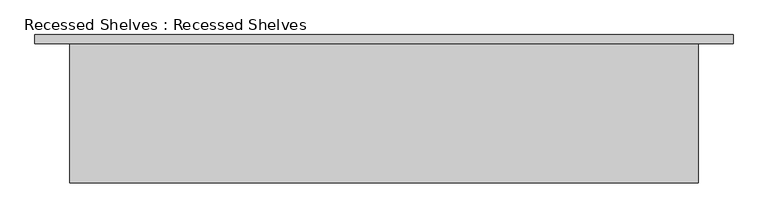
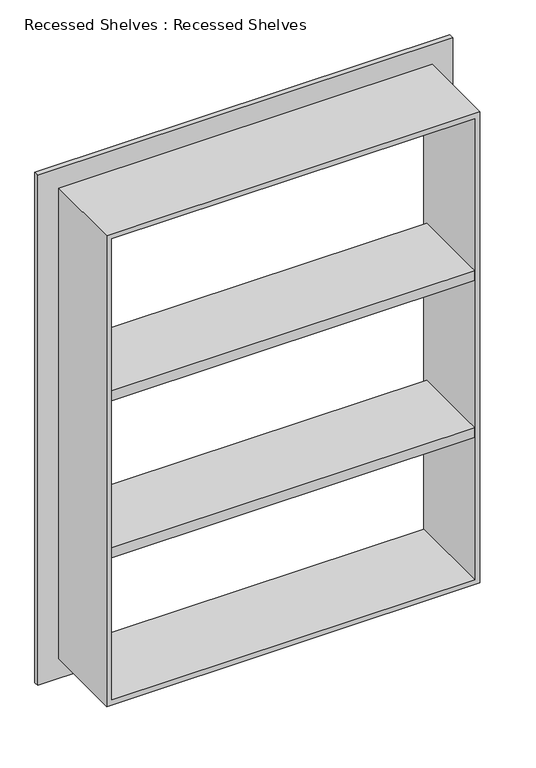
"""IFC4 building model written with IfcOpenShell, lengths in millimetres: furniture geometry, Recessed Shelves : Recessed Shelves."""

from ifc_helpers import new_model, si_unit, frame, origin, place, context, project, spatial, polyline, outline, extrude, faceted_brep, source, transform, mapped, element, save


def recessed_shelves_recessed_shelves_ed76693e(model_context):
    return source(origin(), model_context, "Body", "SolidModel", [
        faceted_brep([(-457.2, -177.8, 2143.2951342), (-457.2, 25.4, 2143.2951342), (-457.2, 25.4, 924.0951342), (-457.2, -177.8, 924.0951342), (-508.0, 25.4, 2194.0951342), (-508.0, 25.4, 873.2951342), (508.0, 25.4, 873.2951342), (508.0, 25.4, 2194.0951342), (457.2, 25.4, 2143.2951342), (457.2, 25.4, 924.0951342), (457.2, -177.8, 924.0951342), (457.2, -177.8, 2143.2951342), (444.5, -177.8, 2130.5951342), (444.5, -177.8, 936.7951342), (-444.5, -177.8, 936.7951342), (-444.5, -177.8, 2130.5951342), (-444.5, 38.1, 2130.5951342), (-444.5, 38.1, 936.7951342), (444.5, 38.1, 936.7951342), (508.0, 38.1, 2194.0951342), (508.0, 38.1, 873.2951342), (-508.0, 38.1, 873.2951342), (-508.0, 38.1, 2194.0951342), (444.5, 38.1, 2130.5951342)], [[[0, 1, 2, 3]], [[4, 5, 6, 7], [8, 9, 2, 1]], [[3, 2, 9, 10]], [[0, 3, 10, 11], [12, 13, 14, 15]], [[16, 15, 14, 17]], [[17, 14, 13, 18]], [[19, 20, 21, 22], [16, 17, 18, 23]], [[4, 22, 21, 5]], [[5, 21, 20, 6]], [[10, 9, 8, 11]], [[18, 13, 12, 23]], [[6, 20, 19, 7]], [[11, 8, 1, 0]], [[23, 12, 15, 16]], [[7, 19, 22, 4]]]),
        extrude(outline(polyline([(444.5, -177.8), (-444.5, -177.8), (-444.5, 25.4), (444.5, 25.4), (444.5, -177.8)])), frame((0.0, 0.0, 1305.0951342), z_axis=(0.0, 0.0, 1.0), x_axis=(1.0, 0.0, 0.0)), (0.0, 0.0, 1.0), 25.4),
        extrude(outline(polyline([(444.5, -177.8), (-444.5, -177.8), (-444.5, 25.4), (444.5, 25.4), (444.5, -177.8)])), frame((0.0, 0.0, 1711.4951342), z_axis=(0.0, 0.0, 1.0), x_axis=(1.0, 0.0, 0.0)), (0.0, 0.0, 1.0), 25.4),
    ])


if __name__ == "__main__":
    model = new_model("IFC4")
    model_context = context("Model", 3, world=origin())
    ifc_project = project(units=[si_unit("LENGTHUNIT", "METRE", prefix="MILLI")], contexts=[model_context])
    site = spatial("IfcSite", under=ifc_project)
    building = spatial("IfcBuilding", under=site)
    placement = place(None, origin())
    recessed_shelves_recessed_shelves_shape = recessed_shelves_recessed_shelves_ed76693e(model_context)
    element("IfcFurniture", 1, ObjectType="Recessed Shelves : Recessed Shelves", at=placement, inside=building, context=model_context, shape_type="MappedRepresentation", body=[
        mapped(recessed_shelves_recessed_shelves_shape, transform((0.0, 0.0, 0.0), x_axis=(1.0, 0.0, 0.0), y_axis=(0.0, 1.0, 0.0), z_axis=(0.0, 0.0, 1.0))),
    ])
    save(model, "model.ifc")
